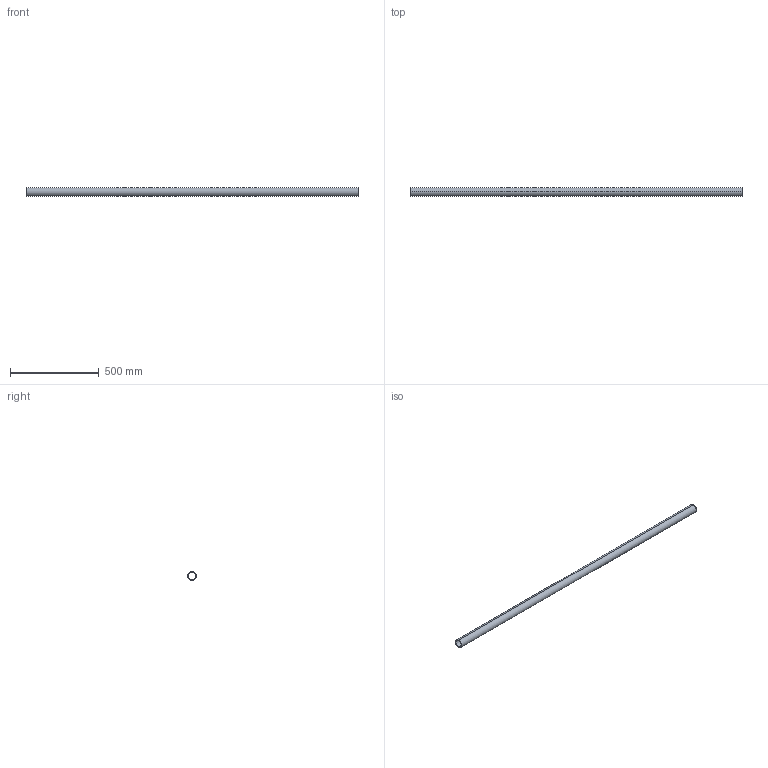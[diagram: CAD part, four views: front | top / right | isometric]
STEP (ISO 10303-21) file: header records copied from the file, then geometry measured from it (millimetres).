
FILE_DESCRIPTION (( 'STEP AP214' ), '1' );
FILE_NAME ('CCJ029-REP.217 - MAIN COURANTE PLANCHER INFERIEUR B4-B5.STEP', '2024-01-10T14:58:53', ( '' ), ( '' ), 'SwSTEP 2.0', 'SolidWorks 2021', '' );
FILE_SCHEMA (( 'AUTOMOTIVE_DESIGN' ));
Length unit declared in the file: millimetre
Products named in the file (1): CCJ029-REP.217 - MAIN COURANTE PLANCHER INFERIEUR B4-B5
Bounding box: 1870 x 48.3 x 48.3 mm (x, y, z)
Volume: 672662.1 mm3; surface area: 538849.1 mm2
Topology: 1 solids, 1 shells, 6 faces, 12 edges, 8 vertices
Faces by surface type: cylinder 4, plane 2
Entity records: 202 total; most frequent: DIRECTION 34, CARTESIAN_POINT 27, ORIENTED_EDGE 24, AXIS2_PLACEMENT_3D 15, EDGE_CURVE 12, VERTEX_POINT 8, EDGE_LOOP 8, CIRCLE 8
